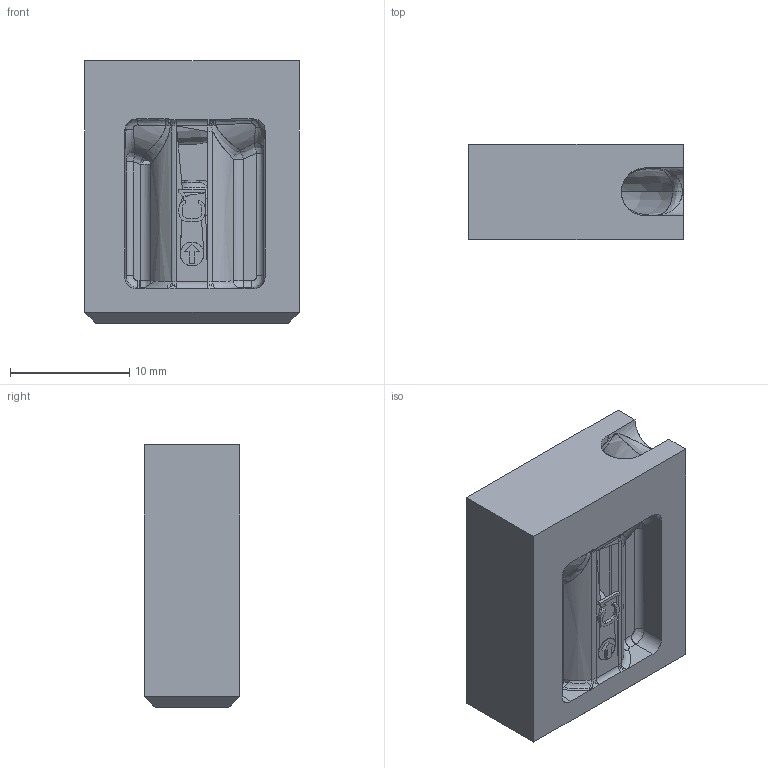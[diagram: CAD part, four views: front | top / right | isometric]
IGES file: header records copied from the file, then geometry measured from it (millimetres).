
Start section: VISI Layer Mapping Iges    VISI  0      0  1      WARNINGS
Global section: file name: G:\Produktkommunikation\Support\CD-Online-Katalog\3D Daten Produkte\E1680_85_90_92_95\E1692_18.igs; native system: VISI 16.0; preprocessor: 2.0; author: PUM; organization: Unknown; date: 20110119.165807; units: millimetre
Bounding box: 18 x 8 x 22 mm (x, y, z)
Surface area: 2079.5 mm2 (no closed solid volume)
Topology: 0 solids, 0 shells, 263 faces, 1810 edges, 1784 vertices
Faces by surface type: bspline 263
